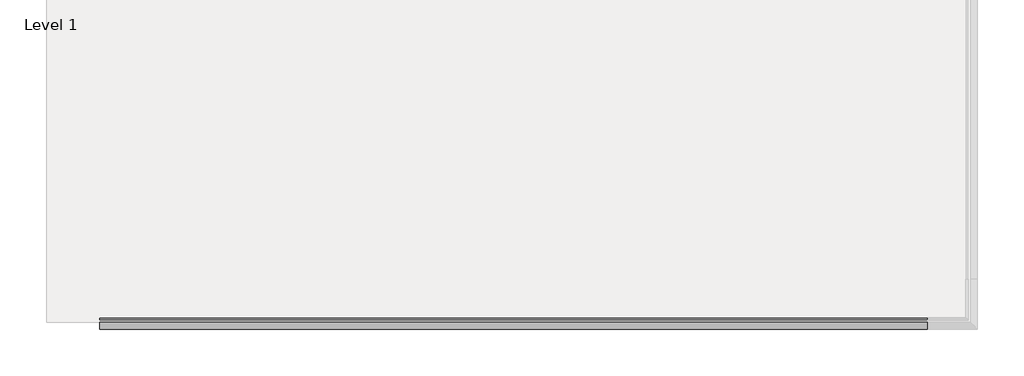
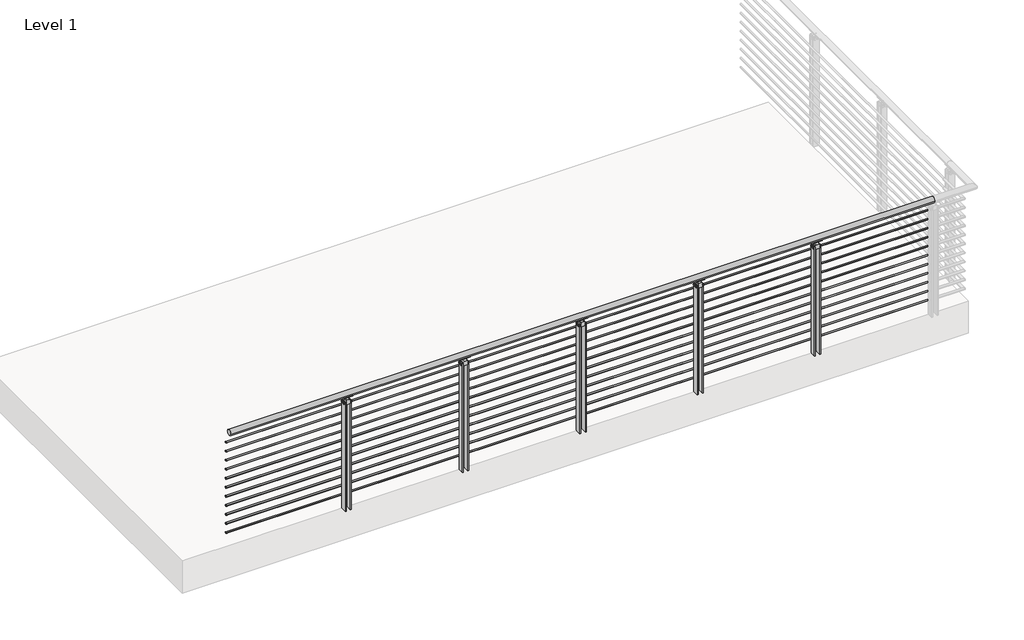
# One storey, part 9 of 36: 1 railing.
"""IFC4 building model written with IfcOpenShell, lengths in millimetres."""

from ifc_helpers import new_model, si_unit, point, frame, frame_2d, origin, origin_with_axes, place, context, project, spatial, polyline, circle_curve, trimmed, segment, composite_curve, outline, extrude, element, save
from ifc_brep_helpers import plane_surface, cylinder_surface, revolved_surface, advanced_brep

model = new_model("IFC4")

# Units and contexts
model_context = context("Model", 3, world=origin())
ifc_project = project(units=[si_unit("LENGTHUNIT", "METRE", prefix="MILLI")], contexts=[model_context])

# Site, building, storey
site = spatial("IfcSite", under=ifc_project)
building = spatial("IfcBuilding", under=site)
storey = spatial("IfcBuildingStorey", under=building, Name="Level 1", Elevation=0.0)

# Railing
placement = place(None, origin())
element("IfcRailing", 1, ObjectType="VIVA-BLADE-Multiline-Weld Mount-Straight", at=placement, inside=storey, context=model_context, shape_type="SolidModel", body=[
    extrude(outline(composite_curve([segment(trimmed(circle_curve(frame_2d((-75040.6334719, 1054.1)), 25.4), [point((-75066.0334719, 1054.1))], [point((-75015.2334719, 1054.1))], False, "CARTESIAN"), True, "CONTINUOUS"), segment(trimmed(circle_curve(frame_2d((-75040.6334719, 1054.1)), 25.4), [point((-75015.2334719, 1054.1))], [point((-75066.0334719, 1054.1))], False, "CARTESIAN"), True, "CONTINUOUS")], self_intersect=False)), frame((38933.2855247, 0.0, 0.0), z_axis=(1.0, 0.0, 0.0), x_axis=(0.0, 1.0, 0.0)), (0.0, 0.0, 1.0), 6096.0),
    extrude(outline(composite_curve([segment(trimmed(circle_curve(frame_2d((-74989.8334719, 933.45)), 6.35), [point((-74983.4834719, 933.45))], [point((-74996.1834719, 933.45))], False, "CARTESIAN"), True, "CONTINUOUS"), segment(trimmed(circle_curve(frame_2d((-74989.8334719, 933.45)), 6.35), [point((-74996.1834719, 933.45))], [point((-74983.4834719, 933.45))], False, "CARTESIAN"), True, "CONTINUOUS")], self_intersect=False)), frame((38933.2855247, 0.0, 0.0), z_axis=(1.0, 0.0, 0.0), x_axis=(0.0, 1.0, 0.0)), (0.0, 0.0, 1.0), 6096.0),
    extrude(outline(composite_curve([segment(trimmed(circle_curve(frame_2d((-74989.8334719, 850.9)), 6.35), [point((-74983.4834719, 850.9))], [point((-74996.1834719, 850.9))], False, "CARTESIAN"), True, "CONTINUOUS"), segment(trimmed(circle_curve(frame_2d((-74989.8334719, 850.9)), 6.35), [point((-74996.1834719, 850.9))], [point((-74983.4834719, 850.9))], False, "CARTESIAN"), True, "CONTINUOUS")], self_intersect=False)), frame((38933.2855247, 0.0, 0.0), z_axis=(1.0, 0.0, 0.0), x_axis=(0.0, 1.0, 0.0)), (0.0, 0.0, 1.0), 6096.0),
    extrude(outline(composite_curve([segment(trimmed(circle_curve(frame_2d((-74989.8334719, 768.35)), 6.35), [point((-74983.4834719, 768.35))], [point((-74996.1834719, 768.35))], False, "CARTESIAN"), True, "CONTINUOUS"), segment(trimmed(circle_curve(frame_2d((-74989.8334719, 768.35)), 6.35), [point((-74996.1834719, 768.35))], [point((-74983.4834719, 768.35))], False, "CARTESIAN"), True, "CONTINUOUS")], self_intersect=False)), frame((38933.2855247, 0.0, 0.0), z_axis=(1.0, 0.0, 0.0), x_axis=(0.0, 1.0, 0.0)), (0.0, 0.0, 1.0), 6096.0),
    extrude(outline(composite_curve([segment(trimmed(circle_curve(frame_2d((-74989.8334719, 685.8)), 6.35), [point((-74983.4834719, 685.8))], [point((-74996.1834719, 685.8))], False, "CARTESIAN"), True, "CONTINUOUS"), segment(trimmed(circle_curve(frame_2d((-74989.8334719, 685.8)), 6.35), [point((-74996.1834719, 685.8))], [point((-74983.4834719, 685.8))], False, "CARTESIAN"), True, "CONTINUOUS")], self_intersect=False)), frame((38933.2855247, 0.0, 0.0), z_axis=(1.0, 0.0, 0.0), x_axis=(0.0, 1.0, 0.0)), (0.0, 0.0, 1.0), 6096.0),
    extrude(outline(composite_curve([segment(trimmed(circle_curve(frame_2d((-74989.8334719, 603.25)), 6.35), [point((-74983.4834719, 603.25))], [point((-74996.1834719, 603.25))], False, "CARTESIAN"), True, "CONTINUOUS"), segment(trimmed(circle_curve(frame_2d((-74989.8334719, 603.25)), 6.35), [point((-74996.1834719, 603.25))], [point((-74983.4834719, 603.25))], False, "CARTESIAN"), True, "CONTINUOUS")], self_intersect=False)), frame((38933.2855247, 0.0, 0.0), z_axis=(1.0, 0.0, 0.0), x_axis=(0.0, 1.0, 0.0)), (0.0, 0.0, 1.0), 6096.0),
    extrude(outline(composite_curve([segment(trimmed(circle_curve(frame_2d((-74989.8334719, 520.7)), 6.35), [point((-74983.4834719, 520.7))], [point((-74996.1834719, 520.7))], False, "CARTESIAN"), True, "CONTINUOUS"), segment(trimmed(circle_curve(frame_2d((-74989.8334719, 520.7)), 6.35), [point((-74996.1834719, 520.7))], [point((-74983.4834719, 520.7))], False, "CARTESIAN"), True, "CONTINUOUS")], self_intersect=False)), frame((38933.2855247, 0.0, 0.0), z_axis=(1.0, 0.0, 0.0), x_axis=(0.0, 1.0, 0.0)), (0.0, 0.0, 1.0), 6096.0),
    extrude(outline(composite_curve([segment(trimmed(circle_curve(frame_2d((-74989.8334719, 438.15)), 6.35), [point((-74983.4834719, 438.15))], [point((-74996.1834719, 438.15))], False, "CARTESIAN"), True, "CONTINUOUS"), segment(trimmed(circle_curve(frame_2d((-74989.8334719, 438.15)), 6.35), [point((-74996.1834719, 438.15))], [point((-74983.4834719, 438.15))], False, "CARTESIAN"), True, "CONTINUOUS")], self_intersect=False)), frame((38933.2855247, 0.0, 0.0), z_axis=(1.0, 0.0, 0.0), x_axis=(0.0, 1.0, 0.0)), (0.0, 0.0, 1.0), 6096.0),
    extrude(outline(composite_curve([segment(trimmed(circle_curve(frame_2d((-74989.8334719, 355.6)), 6.35), [point((-74983.4834719, 355.6))], [point((-74996.1834719, 355.6))], False, "CARTESIAN"), True, "CONTINUOUS"), segment(trimmed(circle_curve(frame_2d((-74989.8334719, 355.6)), 6.35), [point((-74996.1834719, 355.6))], [point((-74983.4834719, 355.6))], False, "CARTESIAN"), True, "CONTINUOUS")], self_intersect=False)), frame((38933.2855247, 0.0, 0.0), z_axis=(1.0, 0.0, 0.0), x_axis=(0.0, 1.0, 0.0)), (0.0, 0.0, 1.0), 6096.0),
    extrude(outline(composite_curve([segment(trimmed(circle_curve(frame_2d((-74989.8334719, 273.05)), 6.35), [point((-74983.4834719, 273.05))], [point((-74996.1834719, 273.05))], False, "CARTESIAN"), True, "CONTINUOUS"), segment(trimmed(circle_curve(frame_2d((-74989.8334719, 273.05)), 6.35), [point((-74996.1834719, 273.05))], [point((-74983.4834719, 273.05))], False, "CARTESIAN"), True, "CONTINUOUS")], self_intersect=False)), frame((38933.2855247, 0.0, 0.0), z_axis=(1.0, 0.0, 0.0), x_axis=(0.0, 1.0, 0.0)), (0.0, 0.0, 1.0), 6096.0),
    extrude(outline(composite_curve([segment(trimmed(circle_curve(frame_2d((-74989.8334719, 190.5)), 6.35), [point((-74983.4834719, 190.5))], [point((-74996.1834719, 190.5))], False, "CARTESIAN"), True, "CONTINUOUS"), segment(trimmed(circle_curve(frame_2d((-74989.8334719, 190.5)), 6.35), [point((-74996.1834719, 190.5))], [point((-74983.4834719, 190.5))], False, "CARTESIAN"), True, "CONTINUOUS")], self_intersect=False)), frame((38933.2855247, 0.0, 0.0), z_axis=(1.0, 0.0, 0.0), x_axis=(0.0, 1.0, 0.0)), (0.0, 0.0, 1.0), 6096.0),
    extrude(outline(composite_curve([segment(trimmed(circle_curve(frame_2d((-74989.8334719, 107.95)), 6.35), [point((-74983.4834719, 107.95))], [point((-74996.1834719, 107.95))], False, "CARTESIAN"), True, "CONTINUOUS"), segment(trimmed(circle_curve(frame_2d((-74989.8334719, 107.95)), 6.35), [point((-74996.1834719, 107.95))], [point((-74983.4834719, 107.95))], False, "CARTESIAN"), True, "CONTINUOUS")], self_intersect=False)), frame((38933.2855247, 0.0, 0.0), z_axis=(1.0, 0.0, 0.0), x_axis=(0.0, 1.0, 0.0)), (0.0, 0.0, 1.0), 6096.0),
    advanced_brep(
    [(44058.5229247, -75027.8733482, 1032.0967655), (44058.5229247, -75052.7454127, 1031.9535285), (44058.5229247, -75055.5543431, 1027.1267745), (44058.5229247, -75024.0374508, 1027.707533), (43968.0481247, -75027.8733482, 1032.0967655), (43968.0481247, -75024.0374508, 1027.707533), (43968.0481247, -75055.6681364, 1027.1893964), (43968.0481247, -75052.8323849, 1032.0018447)],
    [
        (0, 1, circle_curve(frame((44058.5229247, -75040.4371511, 1054.2115898), z_axis=(-1.0, 0.0, 0.0), x_axis=(0.0, 1.0, 0.0)), 25.4345159)),
        (1, 2, circle_curve(frame((44058.5229247, -75054.077038, 1029.4993599), z_axis=(1.0, 0.0, 0.0), x_axis=(0.0, 1.0, 0.0)), 2.7949225)),
        (2, 3, circle_curve(frame((44058.5229247, -75040.303688, 1054.9742164), z_axis=(1.0, 0.0, 0.0), x_axis=(0.0, 1.0, 0.0)), 31.75)),
        (3, 0, circle_curve(frame((44058.5229247, -75026.3257905, 1029.5784521), z_axis=(1.0, 0.0, 0.0), x_axis=(0.0, 1.0, 0.0)), 2.9558141)),
        (4, 5, circle_curve(frame((43968.0481247, -75026.3257905, 1029.5784521), z_axis=(-1.0, 0.0, 0.0), x_axis=(0.0, 1.0, 0.0)), 2.9558141)),
        (5, 6, circle_curve(frame((43968.0481247, -75040.303688, 1054.9742164), z_axis=(-1.0, 0.0, 0.0), x_axis=(0.0, 1.0, 0.0)), 31.75)),
        (6, 7, circle_curve(frame((43968.0481247, -75054.077038, 1029.4993599), z_axis=(-1.0, 0.0, 0.0), x_axis=(0.0, 1.0, 0.0)), 2.7949225)),
        (7, 4, circle_curve(frame((43968.0481247, -75040.4371511, 1054.2115898), z_axis=(1.0, 0.0, 0.0), x_axis=(0.0, 1.0, 0.0)), 25.4345159)),
        (0, 4),
        (7, 1),
        (6, 2),
        (5, 3),
    ],
    [
        plane_surface(frame((44058.5229247, -75015.0026353, 1054.2115898), z_axis=(1.0, 0.0, 0.0), x_axis=(0.0, 0.0, -1.0))),
        plane_surface(frame((43968.0481247, -75015.0026353, 1054.2115898), z_axis=(-1.0, 0.0, 0.0), x_axis=(0.0, 0.0, 1.0))),
        revolved_surface(polyline([(43968.0481247, -75015.00263520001, 1054.2115898), (44058.5229247, -75015.00263520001, 1054.2115898)]), (43968.0481247, -75040.4371511, 1054.2115898), (-1.0, 0.0, 0.0)),
        cylinder_surface(frame((43968.0481247, -75054.077038, 1029.4993599), z_axis=(1.0, 0.0, 0.0), x_axis=(0.0, 1.0, 0.0)), 2.7949225),
        cylinder_surface(frame((43968.0481247, -75040.303688, 1054.9742164), z_axis=(1.0, 0.0, 0.0), x_axis=(0.0, 1.0, 0.0)), 31.75),
        cylinder_surface(frame((43968.0481247, -75026.3257905, 1029.5784521), z_axis=(1.0, 0.0, 0.0), x_axis=(0.0, 1.0, 0.0)), 2.9558141),
    ],
    [
        (0, [[1, 2, 3, 4]]),
        (1, [[5, 6, 7, 8]]),
        (2, [[-1, 9, -8, 10]]),
        (3, [[-2, -10, -7, 11]]),
        (4, [[-3, -11, -6, 12]]),
        (5, [[-4, -12, -5, -9]]),
    ],
),
    advanced_brep(
    [(44025.9855247, -75038.0934719, 1014.4125), (44000.5855247, -75038.0934719, 1014.4125), (43986.2176098, -75038.0934719, 1028.7804149), (44040.3534396, -75038.0934719, 1028.7804149), (44025.9855247, -75043.1734719, 1014.4125), (44040.3534396, -75043.1734719, 1028.7804149), (43986.2176098, -75043.1734719, 1028.7804149), (44000.5855247, -75043.1734719, 1014.4125)],
    [
        (0, 1),
        (1, 2, circle_curve(frame((43986.2176098, -75038.0934719, 1014.4125), z_axis=(0.0, -1.0, 0.0), x_axis=(-1.0, 0.0, 0.0)), 14.3679149)),
        (2, 3),
        (3, 0, circle_curve(frame((44040.3534396, -75038.0934719, 1014.4125), z_axis=(0.0, -1.0, 0.0), x_axis=(-1.0, 0.0, 0.0)), 14.3679149)),
        (4, 5, circle_curve(frame((44040.3534396, -75043.1734719, 1014.4125), z_axis=(0.0, 1.0, 0.0), x_axis=(-1.0, 0.0, 0.0)), 14.3679149)),
        (5, 6),
        (6, 7, circle_curve(frame((43986.2176098, -75043.1734719, 1014.4125), z_axis=(0.0, 1.0, 0.0), x_axis=(-1.0, 0.0, 0.0)), 14.3679149)),
        (7, 4),
        (0, 4),
        (7, 1),
        (6, 2),
        (5, 3),
    ],
    [
        plane_surface(frame((44000.5855247, -75038.0934719, 1014.4125), z_axis=(0.0, 1.0, 0.0), x_axis=(-1.0, 0.0, 0.0))),
        plane_surface(frame((44000.5855247, -75043.1734719, 1014.4125), z_axis=(0.0, -1.0, 0.0), x_axis=(1.0, 0.0, 0.0))),
        plane_surface(frame((44025.9855247, -75038.0934719, 1014.4125), z_axis=(0.0, 0.0, -1.0), x_axis=(0.0, -1.0, 0.0))),
        revolved_surface(polyline([(43971.8496949, -75043.1734719, 1014.4125), (43971.8496949, -75038.0934719, 1014.4125)]), (43986.2176098, -75043.1734719, 1014.4125), (0.0, -1.0, 0.0)),
        plane_surface(frame((43986.2176098, -75038.0934719, 1028.7804149), z_axis=(0.0, 0.0, 1.0), x_axis=(0.0, -1.0, 0.0))),
        revolved_surface(polyline([(44025.9855247, -75043.1734719, 1014.4125), (44025.9855247, -75038.0934719, 1014.4125)]), (44040.3534396, -75043.1734719, 1014.4125), (0.0, -1.0, 0.0)),
    ],
    [
        (0, [[1, 2, 3, 4]]),
        (1, [[5, 6, 7, 8]]),
        (2, [[-1, 9, -8, 10]]),
        (3, [[-2, -10, -7, 11]]),
        (4, [[-3, -11, -6, 12]]),
        (5, [[-4, -12, -5, -9]]),
    ],
),
    extrude(outline(polyline([(43986.210689, -75015.2336752), (43994.2355247, -75015.2336752), (43994.2355247, -75066.0359998), (43986.210689, -75066.0359998), (43986.210689, -75015.2336752)])), origin_with_axes(), (0.0, 0.0, 1.0), 996.95),
    extrude(outline(composite_curve([segment(trimmed(circle_curve(frame_2d((-75053.3359488, 986.0416929)), 8.89), [point((-75062.2259488, 986.0416929))], [point((-75044.4459488, 986.0416929))], False, "CARTESIAN"), True, "CONTINUOUS"), segment(trimmed(circle_curve(frame_2d((-75053.3359488, 986.0416929)), 8.89), [point((-75044.4459488, 986.0416929))], [point((-75062.2259488, 986.0416929))], False, "CARTESIAN"), True, "CONTINUOUS")], self_intersect=False)), frame((43981.5355247, 0.0, 0.0), z_axis=(1.0, 0.0, 0.0), x_axis=(0.0, 1.0, 0.0)), (0.0, 0.0, 1.0), 63.4880631),
    extrude(outline(composite_curve([segment(trimmed(circle_curve(frame_2d((-75027.9360508, 986.0416929)), 8.89), [point((-75036.8260508, 986.0416929))], [point((-75019.0460508, 986.0416929))], False, "CARTESIAN"), True, "CONTINUOUS"), segment(trimmed(circle_curve(frame_2d((-75027.9360508, 986.0416929)), 8.89), [point((-75019.0460508, 986.0416929))], [point((-75036.8260508, 986.0416929))], False, "CARTESIAN"), True, "CONTINUOUS")], self_intersect=False)), frame((43981.5355247, 0.0, 0.0), z_axis=(1.0, 0.0, 0.0), x_axis=(0.0, 1.0, 0.0)), (0.0, 0.0, 1.0), 63.4880631),
    extrude(outline(polyline([(974.7123, 43994.2355247), (974.7123, 44032.3355247), (1008.0625, 44032.3355247), (1014.4125, 44025.9855247), (1014.4125, 44000.5855247), (1008.0625, 43994.2355247), (974.7123, 43994.2355247)])), frame((0.0, -75066.0359998, 0.0), z_axis=(0.0, 1.0, 0.0), x_axis=(0.0, 0.0, 1.0)), (0.0, 0.0, 1.0), 50.8025279),
    extrude(outline(polyline([(44032.3354867, -75015.2336752), (44040.3364867, -75015.2336752), (44040.3364867, -75066.0359998), (44032.3354867, -75066.0359998), (44032.3354867, -75015.2336752)])), origin_with_axes(), (0.0, 0.0, 1.0), 996.95),
    advanced_brep(
    [(43042.5229247, -75027.8733482, 1032.0967655), (43042.5229247, -75052.7454127, 1031.9535285), (43042.5229247, -75055.5543431, 1027.1267745), (43042.5229247, -75024.0374508, 1027.707533), (42952.0481247, -75027.8733482, 1032.0967655), (42952.0481247, -75024.0374508, 1027.707533), (42952.0481247, -75055.6681364, 1027.1893964), (42952.0481247, -75052.8323849, 1032.0018447)],
    [
        (0, 1, circle_curve(frame((43042.5229247, -75040.4371511, 1054.2115898), z_axis=(-1.0, 0.0, 0.0), x_axis=(0.0, 1.0, 0.0)), 25.4345159)),
        (1, 2, circle_curve(frame((43042.5229247, -75054.077038, 1029.4993599), z_axis=(1.0, 0.0, 0.0), x_axis=(0.0, 1.0, 0.0)), 2.7949225)),
        (2, 3, circle_curve(frame((43042.5229247, -75040.303688, 1054.9742164), z_axis=(1.0, 0.0, 0.0), x_axis=(0.0, 1.0, 0.0)), 31.75)),
        (3, 0, circle_curve(frame((43042.5229247, -75026.3257905, 1029.5784521), z_axis=(1.0, 0.0, 0.0), x_axis=(0.0, 1.0, 0.0)), 2.9558141)),
        (4, 5, circle_curve(frame((42952.0481247, -75026.3257905, 1029.5784521), z_axis=(-1.0, 0.0, 0.0), x_axis=(0.0, 1.0, 0.0)), 2.9558141)),
        (5, 6, circle_curve(frame((42952.0481247, -75040.303688, 1054.9742164), z_axis=(-1.0, 0.0, 0.0), x_axis=(0.0, 1.0, 0.0)), 31.75)),
        (6, 7, circle_curve(frame((42952.0481247, -75054.077038, 1029.4993599), z_axis=(-1.0, 0.0, 0.0), x_axis=(0.0, 1.0, 0.0)), 2.7949225)),
        (7, 4, circle_curve(frame((42952.0481247, -75040.4371511, 1054.2115898), z_axis=(1.0, 0.0, 0.0), x_axis=(0.0, 1.0, 0.0)), 25.4345159)),
        (0, 4),
        (7, 1),
        (6, 2),
        (5, 3),
    ],
    [
        plane_surface(frame((43042.5229247, -75015.0026353, 1054.2115898), z_axis=(1.0, 0.0, 0.0), x_axis=(0.0, 0.0, -1.0))),
        plane_surface(frame((42952.0481247, -75015.0026353, 1054.2115898), z_axis=(-1.0, 0.0, 0.0), x_axis=(0.0, 0.0, 1.0))),
        revolved_surface(polyline([(42952.0481247, -75015.00263520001, 1054.2115898), (43042.5229247, -75015.00263520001, 1054.2115898)]), (42952.0481247, -75040.4371511, 1054.2115898), (-1.0, 0.0, 0.0)),
        cylinder_surface(frame((42952.0481247, -75054.077038, 1029.4993599), z_axis=(1.0, 0.0, 0.0), x_axis=(0.0, 1.0, 0.0)), 2.7949225),
        cylinder_surface(frame((42952.0481247, -75040.303688, 1054.9742164), z_axis=(1.0, 0.0, 0.0), x_axis=(0.0, 1.0, 0.0)), 31.75),
        cylinder_surface(frame((42952.0481247, -75026.3257905, 1029.5784521), z_axis=(1.0, 0.0, 0.0), x_axis=(0.0, 1.0, 0.0)), 2.9558141),
    ],
    [
        (0, [[1, 2, 3, 4]]),
        (1, [[5, 6, 7, 8]]),
        (2, [[-1, 9, -8, 10]]),
        (3, [[-2, -10, -7, 11]]),
        (4, [[-3, -11, -6, 12]]),
        (5, [[-4, -12, -5, -9]]),
    ],
),
    advanced_brep(
    [(43009.9855247, -75038.0934719, 1014.4125), (42984.5855247, -75038.0934719, 1014.4125), (42970.2176098, -75038.0934719, 1028.7804149), (43024.3534396, -75038.0934719, 1028.7804149), (43009.9855247, -75043.1734719, 1014.4125), (43024.3534396, -75043.1734719, 1028.7804149), (42970.2176098, -75043.1734719, 1028.7804149), (42984.5855247, -75043.1734719, 1014.4125)],
    [
        (0, 1),
        (1, 2, circle_curve(frame((42970.2176098, -75038.0934719, 1014.4125), z_axis=(0.0, -1.0, 0.0), x_axis=(-1.0, 0.0, 0.0)), 14.3679149)),
        (2, 3),
        (3, 0, circle_curve(frame((43024.3534396, -75038.0934719, 1014.4125), z_axis=(0.0, -1.0, 0.0), x_axis=(-1.0, 0.0, 0.0)), 14.3679149)),
        (4, 5, circle_curve(frame((43024.3534396, -75043.1734719, 1014.4125), z_axis=(0.0, 1.0, 0.0), x_axis=(-1.0, 0.0, 0.0)), 14.3679149)),
        (5, 6),
        (6, 7, circle_curve(frame((42970.2176098, -75043.1734719, 1014.4125), z_axis=(0.0, 1.0, 0.0), x_axis=(-1.0, 0.0, 0.0)), 14.3679149)),
        (7, 4),
        (0, 4),
        (7, 1),
        (6, 2),
        (5, 3),
    ],
    [
        plane_surface(frame((42984.5855247, -75038.0934719, 1014.4125), z_axis=(0.0, 1.0, 0.0), x_axis=(-1.0, 0.0, 0.0))),
        plane_surface(frame((42984.5855247, -75043.1734719, 1014.4125), z_axis=(0.0, -1.0, 0.0), x_axis=(1.0, 0.0, 0.0))),
        plane_surface(frame((43009.9855247, -75038.0934719, 1014.4125), z_axis=(0.0, 0.0, -1.0), x_axis=(0.0, -1.0, 0.0))),
        revolved_surface(polyline([(42955.8496949, -75043.1734719, 1014.4125), (42955.8496949, -75038.0934719, 1014.4125)]), (42970.2176098, -75043.1734719, 1014.4125), (0.0, -1.0, 0.0)),
        plane_surface(frame((42970.2176098, -75038.0934719, 1028.7804149), z_axis=(0.0, 0.0, 1.0), x_axis=(0.0, -1.0, 0.0))),
        revolved_surface(polyline([(43009.9855247, -75043.1734719, 1014.4125), (43009.9855247, -75038.0934719, 1014.4125)]), (43024.3534396, -75043.1734719, 1014.4125), (0.0, -1.0, 0.0)),
    ],
    [
        (0, [[1, 2, 3, 4]]),
        (1, [[5, 6, 7, 8]]),
        (2, [[-1, 9, -8, 10]]),
        (3, [[-2, -10, -7, 11]]),
        (4, [[-3, -11, -6, 12]]),
        (5, [[-4, -12, -5, -9]]),
    ],
),
    extrude(outline(polyline([(42970.210689, -75015.2336752), (42978.2355247, -75015.2336752), (42978.2355247, -75066.0359998), (42970.210689, -75066.0359998), (42970.210689, -75015.2336752)])), origin_with_axes(), (0.0, 0.0, 1.0), 996.95),
    extrude(outline(composite_curve([segment(trimmed(circle_curve(frame_2d((-75053.3359488, 986.0416929)), 8.89), [point((-75062.2259488, 986.0416929))], [point((-75044.4459488, 986.0416929))], False, "CARTESIAN"), True, "CONTINUOUS"), segment(trimmed(circle_curve(frame_2d((-75053.3359488, 986.0416929)), 8.89), [point((-75044.4459488, 986.0416929))], [point((-75062.2259488, 986.0416929))], False, "CARTESIAN"), True, "CONTINUOUS")], self_intersect=False)), frame((42965.5355247, 0.0, 0.0), z_axis=(1.0, 0.0, 0.0), x_axis=(0.0, 1.0, 0.0)), (0.0, 0.0, 1.0), 63.4880631),
    extrude(outline(composite_curve([segment(trimmed(circle_curve(frame_2d((-75027.9360508, 986.0416929)), 8.89), [point((-75036.8260508, 986.0416929))], [point((-75019.0460508, 986.0416929))], False, "CARTESIAN"), True, "CONTINUOUS"), segment(trimmed(circle_curve(frame_2d((-75027.9360508, 986.0416929)), 8.89), [point((-75019.0460508, 986.0416929))], [point((-75036.8260508, 986.0416929))], False, "CARTESIAN"), True, "CONTINUOUS")], self_intersect=False)), frame((42965.5355247, 0.0, 0.0), z_axis=(1.0, 0.0, 0.0), x_axis=(0.0, 1.0, 0.0)), (0.0, 0.0, 1.0), 63.4880631),
    extrude(outline(polyline([(974.7123, 42978.2355247), (974.7123, 43016.3355247), (1008.0625, 43016.3355247), (1014.4125, 43009.9855247), (1014.4125, 42984.5855247), (1008.0625, 42978.2355247), (974.7123, 42978.2355247)])), frame((0.0, -75066.0359998, 0.0), z_axis=(0.0, 1.0, 0.0), x_axis=(0.0, 0.0, 1.0)), (0.0, 0.0, 1.0), 50.8025279),
    extrude(outline(polyline([(43016.3354867, -75015.2336752), (43024.3364867, -75015.2336752), (43024.3364867, -75066.0359998), (43016.3354867, -75066.0359998), (43016.3354867, -75015.2336752)])), origin_with_axes(), (0.0, 0.0, 1.0), 996.95),
    advanced_brep(
    [(42026.5229247, -75027.8733482, 1032.0967655), (42026.5229247, -75052.7454127, 1031.9535285), (42026.5229247, -75055.5543431, 1027.1267745), (42026.5229247, -75024.0374508, 1027.707533), (41936.0481247, -75027.8733482, 1032.0967655), (41936.0481247, -75024.0374508, 1027.707533), (41936.0481247, -75055.6681364, 1027.1893964), (41936.0481247, -75052.8323849, 1032.0018447)],
    [
        (0, 1, circle_curve(frame((42026.5229247, -75040.4371511, 1054.2115898), z_axis=(-1.0, 0.0, 0.0), x_axis=(0.0, 1.0, 0.0)), 25.4345159)),
        (1, 2, circle_curve(frame((42026.5229247, -75054.077038, 1029.4993599), z_axis=(1.0, 0.0, 0.0), x_axis=(0.0, 1.0, 0.0)), 2.7949225)),
        (2, 3, circle_curve(frame((42026.5229247, -75040.303688, 1054.9742164), z_axis=(1.0, 0.0, 0.0), x_axis=(0.0, 1.0, 0.0)), 31.75)),
        (3, 0, circle_curve(frame((42026.5229247, -75026.3257905, 1029.5784521), z_axis=(1.0, 0.0, 0.0), x_axis=(0.0, 1.0, 0.0)), 2.9558141)),
        (4, 5, circle_curve(frame((41936.0481247, -75026.3257905, 1029.5784521), z_axis=(-1.0, 0.0, 0.0), x_axis=(0.0, 1.0, 0.0)), 2.9558141)),
        (5, 6, circle_curve(frame((41936.0481247, -75040.303688, 1054.9742164), z_axis=(-1.0, 0.0, 0.0), x_axis=(0.0, 1.0, 0.0)), 31.75)),
        (6, 7, circle_curve(frame((41936.0481247, -75054.077038, 1029.4993599), z_axis=(-1.0, 0.0, 0.0), x_axis=(0.0, 1.0, 0.0)), 2.7949225)),
        (7, 4, circle_curve(frame((41936.0481247, -75040.4371511, 1054.2115898), z_axis=(1.0, 0.0, 0.0), x_axis=(0.0, 1.0, 0.0)), 25.4345159)),
        (0, 4),
        (7, 1),
        (6, 2),
        (5, 3),
    ],
    [
        plane_surface(frame((42026.5229247, -75015.0026353, 1054.2115898), z_axis=(1.0, 0.0, 0.0), x_axis=(0.0, 0.0, -1.0))),
        plane_surface(frame((41936.0481247, -75015.0026353, 1054.2115898), z_axis=(-1.0, 0.0, 0.0), x_axis=(0.0, 0.0, 1.0))),
        revolved_surface(polyline([(41936.0481247, -75015.00263520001, 1054.2115898), (42026.5229247, -75015.00263520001, 1054.2115898)]), (41936.0481247, -75040.4371511, 1054.2115898), (-1.0, 0.0, 0.0)),
        cylinder_surface(frame((41936.0481247, -75054.077038, 1029.4993599), z_axis=(1.0, 0.0, 0.0), x_axis=(0.0, 1.0, 0.0)), 2.7949225),
        cylinder_surface(frame((41936.0481247, -75040.303688, 1054.9742164), z_axis=(1.0, 0.0, 0.0), x_axis=(0.0, 1.0, 0.0)), 31.75),
        cylinder_surface(frame((41936.0481247, -75026.3257905, 1029.5784521), z_axis=(1.0, 0.0, 0.0), x_axis=(0.0, 1.0, 0.0)), 2.9558141),
    ],
    [
        (0, [[1, 2, 3, 4]]),
        (1, [[5, 6, 7, 8]]),
        (2, [[-1, 9, -8, 10]]),
        (3, [[-2, -10, -7, 11]]),
        (4, [[-3, -11, -6, 12]]),
        (5, [[-4, -12, -5, -9]]),
    ],
),
    advanced_brep(
    [(41993.9855247, -75038.0934719, 1014.4125), (41968.5855247, -75038.0934719, 1014.4125), (41954.2176098, -75038.0934719, 1028.7804149), (42008.3534396, -75038.0934719, 1028.7804149), (41993.9855247, -75043.1734719, 1014.4125), (42008.3534396, -75043.1734719, 1028.7804149), (41954.2176098, -75043.1734719, 1028.7804149), (41968.5855247, -75043.1734719, 1014.4125)],
    [
        (0, 1),
        (1, 2, circle_curve(frame((41954.2176098, -75038.0934719, 1014.4125), z_axis=(0.0, -1.0, 0.0), x_axis=(-1.0, 0.0, 0.0)), 14.3679149)),
        (2, 3),
        (3, 0, circle_curve(frame((42008.3534396, -75038.0934719, 1014.4125), z_axis=(0.0, -1.0, 0.0), x_axis=(-1.0, 0.0, 0.0)), 14.3679149)),
        (4, 5, circle_curve(frame((42008.3534396, -75043.1734719, 1014.4125), z_axis=(0.0, 1.0, 0.0), x_axis=(-1.0, 0.0, 0.0)), 14.3679149)),
        (5, 6),
        (6, 7, circle_curve(frame((41954.2176098, -75043.1734719, 1014.4125), z_axis=(0.0, 1.0, 0.0), x_axis=(-1.0, 0.0, 0.0)), 14.3679149)),
        (7, 4),
        (0, 4),
        (7, 1),
        (6, 2),
        (5, 3),
    ],
    [
        plane_surface(frame((41968.5855247, -75038.0934719, 1014.4125), z_axis=(0.0, 1.0, 0.0), x_axis=(-1.0, 0.0, 0.0))),
        plane_surface(frame((41968.5855247, -75043.1734719, 1014.4125), z_axis=(0.0, -1.0, 0.0), x_axis=(1.0, 0.0, 0.0))),
        plane_surface(frame((41993.9855247, -75038.0934719, 1014.4125), z_axis=(0.0, 0.0, -1.0), x_axis=(0.0, -1.0, 0.0))),
        revolved_surface(polyline([(41939.8496949, -75043.1734719, 1014.4125), (41939.8496949, -75038.0934719, 1014.4125)]), (41954.2176098, -75043.1734719, 1014.4125), (0.0, -1.0, 0.0)),
        plane_surface(frame((41954.2176098, -75038.0934719, 1028.7804149), z_axis=(0.0, 0.0, 1.0), x_axis=(0.0, -1.0, 0.0))),
        revolved_surface(polyline([(41993.9855247, -75043.1734719, 1014.4125), (41993.9855247, -75038.0934719, 1014.4125)]), (42008.3534396, -75043.1734719, 1014.4125), (0.0, -1.0, 0.0)),
    ],
    [
        (0, [[1, 2, 3, 4]]),
        (1, [[5, 6, 7, 8]]),
        (2, [[-1, 9, -8, 10]]),
        (3, [[-2, -10, -7, 11]]),
        (4, [[-3, -11, -6, 12]]),
        (5, [[-4, -12, -5, -9]]),
    ],
),
    extrude(outline(polyline([(41954.210689, -75015.2336752), (41962.2355247, -75015.2336752), (41962.2355247, -75066.0359998), (41954.210689, -75066.0359998), (41954.210689, -75015.2336752)])), origin_with_axes(), (0.0, 0.0, 1.0), 996.95),
    extrude(outline(composite_curve([segment(trimmed(circle_curve(frame_2d((-75053.3359488, 986.0416929)), 8.89), [point((-75062.2259488, 986.0416929))], [point((-75044.4459488, 986.0416929))], False, "CARTESIAN"), True, "CONTINUOUS"), segment(trimmed(circle_curve(frame_2d((-75053.3359488, 986.0416929)), 8.89), [point((-75044.4459488, 986.0416929))], [point((-75062.2259488, 986.0416929))], False, "CARTESIAN"), True, "CONTINUOUS")], self_intersect=False)), frame((41949.5355247, 0.0, 0.0), z_axis=(1.0, 0.0, 0.0), x_axis=(0.0, 1.0, 0.0)), (0.0, 0.0, 1.0), 63.4880631),
    extrude(outline(composite_curve([segment(trimmed(circle_curve(frame_2d((-75027.9360508, 986.0416929)), 8.89), [point((-75036.8260508, 986.0416929))], [point((-75019.0460508, 986.0416929))], False, "CARTESIAN"), True, "CONTINUOUS"), segment(trimmed(circle_curve(frame_2d((-75027.9360508, 986.0416929)), 8.89), [point((-75019.0460508, 986.0416929))], [point((-75036.8260508, 986.0416929))], False, "CARTESIAN"), True, "CONTINUOUS")], self_intersect=False)), frame((41949.5355247, 0.0, 0.0), z_axis=(1.0, 0.0, 0.0), x_axis=(0.0, 1.0, 0.0)), (0.0, 0.0, 1.0), 63.4880631),
    extrude(outline(polyline([(974.7123, 41962.2355247), (974.7123, 42000.3355247), (1008.0625, 42000.3355247), (1014.4125, 41993.9855247), (1014.4125, 41968.5855247), (1008.0625, 41962.2355247), (974.7123, 41962.2355247)])), frame((0.0, -75066.0359998, 0.0), z_axis=(0.0, 1.0, 0.0), x_axis=(0.0, 0.0, 1.0)), (0.0, 0.0, 1.0), 50.8025279),
    extrude(outline(polyline([(42000.3354867, -75015.2336752), (42008.3364867, -75015.2336752), (42008.3364867, -75066.0359998), (42000.3354867, -75066.0359998), (42000.3354867, -75015.2336752)])), origin_with_axes(), (0.0, 0.0, 1.0), 996.95),
    advanced_brep(
    [(41010.5229247, -75027.8733482, 1032.0967655), (41010.5229247, -75052.7454127, 1031.9535285), (41010.5229247, -75055.5543431, 1027.1267745), (41010.5229247, -75024.0374508, 1027.707533), (40920.0481247, -75027.8733482, 1032.0967655), (40920.0481247, -75024.0374508, 1027.707533), (40920.0481247, -75055.6681364, 1027.1893964), (40920.0481247, -75052.8323849, 1032.0018447)],
    [
        (0, 1, circle_curve(frame((41010.5229247, -75040.4371511, 1054.2115898), z_axis=(-1.0, 0.0, 0.0), x_axis=(0.0, 1.0, 0.0)), 25.4345159)),
        (1, 2, circle_curve(frame((41010.5229247, -75054.077038, 1029.4993599), z_axis=(1.0, 0.0, 0.0), x_axis=(0.0, 1.0, 0.0)), 2.7949225)),
        (2, 3, circle_curve(frame((41010.5229247, -75040.303688, 1054.9742164), z_axis=(1.0, 0.0, 0.0), x_axis=(0.0, 1.0, 0.0)), 31.75)),
        (3, 0, circle_curve(frame((41010.5229247, -75026.3257905, 1029.5784521), z_axis=(1.0, 0.0, 0.0), x_axis=(0.0, 1.0, 0.0)), 2.9558141)),
        (4, 5, circle_curve(frame((40920.0481247, -75026.3257905, 1029.5784521), z_axis=(-1.0, 0.0, 0.0), x_axis=(0.0, 1.0, 0.0)), 2.9558141)),
        (5, 6, circle_curve(frame((40920.0481247, -75040.303688, 1054.9742164), z_axis=(-1.0, 0.0, 0.0), x_axis=(0.0, 1.0, 0.0)), 31.75)),
        (6, 7, circle_curve(frame((40920.0481247, -75054.077038, 1029.4993599), z_axis=(-1.0, 0.0, 0.0), x_axis=(0.0, 1.0, 0.0)), 2.7949225)),
        (7, 4, circle_curve(frame((40920.0481247, -75040.4371511, 1054.2115898), z_axis=(1.0, 0.0, 0.0), x_axis=(0.0, 1.0, 0.0)), 25.4345159)),
        (0, 4),
        (7, 1),
        (6, 2),
        (5, 3),
    ],
    [
        plane_surface(frame((41010.5229247, -75015.0026353, 1054.2115898), z_axis=(1.0, 0.0, 0.0), x_axis=(0.0, 0.0, -1.0))),
        plane_surface(frame((40920.0481247, -75015.0026353, 1054.2115898), z_axis=(-1.0, 0.0, 0.0), x_axis=(0.0, 0.0, 1.0))),
        revolved_surface(polyline([(40920.0481247, -75015.00263520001, 1054.2115898), (41010.5229247, -75015.00263520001, 1054.2115898)]), (40920.0481247, -75040.4371511, 1054.2115898), (-1.0, 0.0, 0.0)),
        cylinder_surface(frame((40920.0481247, -75054.077038, 1029.4993599), z_axis=(1.0, 0.0, 0.0), x_axis=(0.0, 1.0, 0.0)), 2.7949225),
        cylinder_surface(frame((40920.0481247, -75040.303688, 1054.9742164), z_axis=(1.0, 0.0, 0.0), x_axis=(0.0, 1.0, 0.0)), 31.75),
        cylinder_surface(frame((40920.0481247, -75026.3257905, 1029.5784521), z_axis=(1.0, 0.0, 0.0), x_axis=(0.0, 1.0, 0.0)), 2.9558141),
    ],
    [
        (0, [[1, 2, 3, 4]]),
        (1, [[5, 6, 7, 8]]),
        (2, [[-1, 9, -8, 10]]),
        (3, [[-2, -10, -7, 11]]),
        (4, [[-3, -11, -6, 12]]),
        (5, [[-4, -12, -5, -9]]),
    ],
),
    advanced_brep(
    [(40977.9855247, -75038.0934719, 1014.4125), (40952.5855247, -75038.0934719, 1014.4125), (40938.2176098, -75038.0934719, 1028.7804149), (40992.3534396, -75038.0934719, 1028.7804149), (40977.9855247, -75043.1734719, 1014.4125), (40992.3534396, -75043.1734719, 1028.7804149), (40938.2176098, -75043.1734719, 1028.7804149), (40952.5855247, -75043.1734719, 1014.4125)],
    [
        (0, 1),
        (1, 2, circle_curve(frame((40938.2176098, -75038.0934719, 1014.4125), z_axis=(0.0, -1.0, 0.0), x_axis=(-1.0, 0.0, 0.0)), 14.3679149)),
        (2, 3),
        (3, 0, circle_curve(frame((40992.3534396, -75038.0934719, 1014.4125), z_axis=(0.0, -1.0, 0.0), x_axis=(-1.0, 0.0, 0.0)), 14.3679149)),
        (4, 5, circle_curve(frame((40992.3534396, -75043.1734719, 1014.4125), z_axis=(0.0, 1.0, 0.0), x_axis=(-1.0, 0.0, 0.0)), 14.3679149)),
        (5, 6),
        (6, 7, circle_curve(frame((40938.2176098, -75043.1734719, 1014.4125), z_axis=(0.0, 1.0, 0.0), x_axis=(-1.0, 0.0, 0.0)), 14.3679149)),
        (7, 4),
        (0, 4),
        (7, 1),
        (6, 2),
        (5, 3),
    ],
    [
        plane_surface(frame((40952.5855247, -75038.0934719, 1014.4125), z_axis=(0.0, 1.0, 0.0), x_axis=(-1.0, 0.0, 0.0))),
        plane_surface(frame((40952.5855247, -75043.1734719, 1014.4125), z_axis=(0.0, -1.0, 0.0), x_axis=(1.0, 0.0, 0.0))),
        plane_surface(frame((40977.9855247, -75038.0934719, 1014.4125), z_axis=(0.0, 0.0, -1.0), x_axis=(0.0, -1.0, 0.0))),
        revolved_surface(polyline([(40923.8496949, -75043.1734719, 1014.4125), (40923.8496949, -75038.0934719, 1014.4125)]), (40938.2176098, -75043.1734719, 1014.4125), (0.0, -1.0, 0.0)),
        plane_surface(frame((40938.2176098, -75038.0934719, 1028.7804149), z_axis=(0.0, 0.0, 1.0), x_axis=(0.0, -1.0, 0.0))),
        revolved_surface(polyline([(40977.9855247, -75043.1734719, 1014.4125), (40977.9855247, -75038.0934719, 1014.4125)]), (40992.3534396, -75043.1734719, 1014.4125), (0.0, -1.0, 0.0)),
    ],
    [
        (0, [[1, 2, 3, 4]]),
        (1, [[5, 6, 7, 8]]),
        (2, [[-1, 9, -8, 10]]),
        (3, [[-2, -10, -7, 11]]),
        (4, [[-3, -11, -6, 12]]),
        (5, [[-4, -12, -5, -9]]),
    ],
),
    extrude(outline(polyline([(40938.210689, -75015.2336752), (40946.2355247, -75015.2336752), (40946.2355247, -75066.0359998), (40938.210689, -75066.0359998), (40938.210689, -75015.2336752)])), origin_with_axes(), (0.0, 0.0, 1.0), 996.95),
    extrude(outline(composite_curve([segment(trimmed(circle_curve(frame_2d((-75053.3359488, 986.0416929)), 8.89), [point((-75062.2259488, 986.0416929))], [point((-75044.4459488, 986.0416929))], False, "CARTESIAN"), True, "CONTINUOUS"), segment(trimmed(circle_curve(frame_2d((-75053.3359488, 986.0416929)), 8.89), [point((-75044.4459488, 986.0416929))], [point((-75062.2259488, 986.0416929))], False, "CARTESIAN"), True, "CONTINUOUS")], self_intersect=False)), frame((40933.5355247, 0.0, 0.0), z_axis=(1.0, 0.0, 0.0), x_axis=(0.0, 1.0, 0.0)), (0.0, 0.0, 1.0), 63.4880631),
    extrude(outline(composite_curve([segment(trimmed(circle_curve(frame_2d((-75027.9360508, 986.0416929)), 8.89), [point((-75036.8260508, 986.0416929))], [point((-75019.0460508, 986.0416929))], False, "CARTESIAN"), True, "CONTINUOUS"), segment(trimmed(circle_curve(frame_2d((-75027.9360508, 986.0416929)), 8.89), [point((-75019.0460508, 986.0416929))], [point((-75036.8260508, 986.0416929))], False, "CARTESIAN"), True, "CONTINUOUS")], self_intersect=False)), frame((40933.5355247, 0.0, 0.0), z_axis=(1.0, 0.0, 0.0), x_axis=(0.0, 1.0, 0.0)), (0.0, 0.0, 1.0), 63.4880631),
    extrude(outline(polyline([(974.7123, 40946.2355247), (974.7123, 40984.3355247), (1008.0625, 40984.3355247), (1014.4125, 40977.9855247), (1014.4125, 40952.5855247), (1008.0625, 40946.2355247), (974.7123, 40946.2355247)])), frame((0.0, -75066.0359998, 0.0), z_axis=(0.0, 1.0, 0.0), x_axis=(0.0, 0.0, 1.0)), (0.0, 0.0, 1.0), 50.8025279),
    extrude(outline(polyline([(40984.3354867, -75015.2336752), (40992.3364867, -75015.2336752), (40992.3364867, -75066.0359998), (40984.3354867, -75066.0359998), (40984.3354867, -75015.2336752)])), origin_with_axes(), (0.0, 0.0, 1.0), 996.95),
    advanced_brep(
    [(39994.5229247, -75027.8733482, 1032.0967655), (39994.5229247, -75052.7454127, 1031.9535285), (39994.5229247, -75055.5543431, 1027.1267745), (39994.5229247, -75024.0374508, 1027.707533), (39904.0481247, -75027.8733482, 1032.0967655), (39904.0481247, -75024.0374508, 1027.707533), (39904.0481247, -75055.6681364, 1027.1893964), (39904.0481247, -75052.8323849, 1032.0018447)],
    [
        (0, 1, circle_curve(frame((39994.5229247, -75040.4371511, 1054.2115898), z_axis=(-1.0, 0.0, 0.0), x_axis=(0.0, 1.0, 0.0)), 25.4345159)),
        (1, 2, circle_curve(frame((39994.5229247, -75054.077038, 1029.4993599), z_axis=(1.0, 0.0, 0.0), x_axis=(0.0, 1.0, 0.0)), 2.7949225)),
        (2, 3, circle_curve(frame((39994.5229247, -75040.303688, 1054.9742164), z_axis=(1.0, 0.0, 0.0), x_axis=(0.0, 1.0, 0.0)), 31.75)),
        (3, 0, circle_curve(frame((39994.5229247, -75026.3257905, 1029.5784521), z_axis=(1.0, 0.0, 0.0), x_axis=(0.0, 1.0, 0.0)), 2.9558141)),
        (4, 5, circle_curve(frame((39904.0481247, -75026.3257905, 1029.5784521), z_axis=(-1.0, 0.0, 0.0), x_axis=(0.0, 1.0, 0.0)), 2.9558141)),
        (5, 6, circle_curve(frame((39904.0481247, -75040.303688, 1054.9742164), z_axis=(-1.0, 0.0, 0.0), x_axis=(0.0, 1.0, 0.0)), 31.75)),
        (6, 7, circle_curve(frame((39904.0481247, -75054.077038, 1029.4993599), z_axis=(-1.0, 0.0, 0.0), x_axis=(0.0, 1.0, 0.0)), 2.7949225)),
        (7, 4, circle_curve(frame((39904.0481247, -75040.4371511, 1054.2115898), z_axis=(1.0, 0.0, 0.0), x_axis=(0.0, 1.0, 0.0)), 25.4345159)),
        (0, 4),
        (7, 1),
        (6, 2),
        (5, 3),
    ],
    [
        plane_surface(frame((39994.5229247, -75015.0026353, 1054.2115898), z_axis=(1.0, 0.0, 0.0), x_axis=(0.0, 0.0, -1.0))),
        plane_surface(frame((39904.0481247, -75015.0026353, 1054.2115898), z_axis=(-1.0, 0.0, 0.0), x_axis=(0.0, 0.0, 1.0))),
        revolved_surface(polyline([(39904.0481247, -75015.00263520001, 1054.2115898), (39994.5229247, -75015.00263520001, 1054.2115898)]), (39904.0481247, -75040.4371511, 1054.2115898), (-1.0, 0.0, 0.0)),
        cylinder_surface(frame((39904.0481247, -75054.077038, 1029.4993599), z_axis=(1.0, 0.0, 0.0), x_axis=(0.0, 1.0, 0.0)), 2.7949225),
        cylinder_surface(frame((39904.0481247, -75040.303688, 1054.9742164), z_axis=(1.0, 0.0, 0.0), x_axis=(0.0, 1.0, 0.0)), 31.75),
        cylinder_surface(frame((39904.0481247, -75026.3257905, 1029.5784521), z_axis=(1.0, 0.0, 0.0), x_axis=(0.0, 1.0, 0.0)), 2.9558141),
    ],
    [
        (0, [[1, 2, 3, 4]]),
        (1, [[5, 6, 7, 8]]),
        (2, [[-1, 9, -8, 10]]),
        (3, [[-2, -10, -7, 11]]),
        (4, [[-3, -11, -6, 12]]),
        (5, [[-4, -12, -5, -9]]),
    ],
),
    advanced_brep(
    [(39961.9855247, -75038.0934719, 1014.4125), (39936.5855247, -75038.0934719, 1014.4125), (39922.2176098, -75038.0934719, 1028.7804149), (39976.3534396, -75038.0934719, 1028.7804149), (39961.9855247, -75043.1734719, 1014.4125), (39976.3534396, -75043.1734719, 1028.7804149), (39922.2176098, -75043.1734719, 1028.7804149), (39936.5855247, -75043.1734719, 1014.4125)],
    [
        (0, 1),
        (1, 2, circle_curve(frame((39922.2176098, -75038.0934719, 1014.4125), z_axis=(0.0, -1.0, 0.0), x_axis=(-1.0, 0.0, 0.0)), 14.3679149)),
        (2, 3),
        (3, 0, circle_curve(frame((39976.3534396, -75038.0934719, 1014.4125), z_axis=(0.0, -1.0, 0.0), x_axis=(-1.0, 0.0, 0.0)), 14.3679149)),
        (4, 5, circle_curve(frame((39976.3534396, -75043.1734719, 1014.4125), z_axis=(0.0, 1.0, 0.0), x_axis=(-1.0, 0.0, 0.0)), 14.3679149)),
        (5, 6),
        (6, 7, circle_curve(frame((39922.2176098, -75043.1734719, 1014.4125), z_axis=(0.0, 1.0, 0.0), x_axis=(-1.0, 0.0, 0.0)), 14.3679149)),
        (7, 4),
        (0, 4),
        (7, 1),
        (6, 2),
        (5, 3),
    ],
    [
        plane_surface(frame((39936.5855247, -75038.0934719, 1014.4125), z_axis=(0.0, 1.0, 0.0), x_axis=(-1.0, 0.0, 0.0))),
        plane_surface(frame((39936.5855247, -75043.1734719, 1014.4125), z_axis=(0.0, -1.0, 0.0), x_axis=(1.0, 0.0, 0.0))),
        plane_surface(frame((39961.9855247, -75038.0934719, 1014.4125), z_axis=(0.0, 0.0, -1.0), x_axis=(0.0, -1.0, 0.0))),
        revolved_surface(polyline([(39907.8496949, -75043.1734719, 1014.4125), (39907.8496949, -75038.0934719, 1014.4125)]), (39922.2176098, -75043.1734719, 1014.4125), (0.0, -1.0, 0.0)),
        plane_surface(frame((39922.2176098, -75038.0934719, 1028.7804149), z_axis=(0.0, 0.0, 1.0), x_axis=(0.0, -1.0, 0.0))),
        revolved_surface(polyline([(39961.9855247, -75043.1734719, 1014.4125), (39961.9855247, -75038.0934719, 1014.4125)]), (39976.3534396, -75043.1734719, 1014.4125), (0.0, -1.0, 0.0)),
    ],
    [
        (0, [[1, 2, 3, 4]]),
        (1, [[5, 6, 7, 8]]),
        (2, [[-1, 9, -8, 10]]),
        (3, [[-2, -10, -7, 11]]),
        (4, [[-3, -11, -6, 12]]),
        (5, [[-4, -12, -5, -9]]),
    ],
),
    extrude(outline(polyline([(39922.210689, -75015.2336752), (39930.2355247, -75015.2336752), (39930.2355247, -75066.0359998), (39922.210689, -75066.0359998), (39922.210689, -75015.2336752)])), origin_with_axes(), (0.0, 0.0, 1.0), 996.95),
    extrude(outline(composite_curve([segment(trimmed(circle_curve(frame_2d((-75053.3359488, 986.0416929)), 8.89), [point((-75062.2259488, 986.0416929))], [point((-75044.4459488, 986.0416929))], False, "CARTESIAN"), True, "CONTINUOUS"), segment(trimmed(circle_curve(frame_2d((-75053.3359488, 986.0416929)), 8.89), [point((-75044.4459488, 986.0416929))], [point((-75062.2259488, 986.0416929))], False, "CARTESIAN"), True, "CONTINUOUS")], self_intersect=False)), frame((39917.5355247, 0.0, 0.0), z_axis=(1.0, 0.0, 0.0), x_axis=(0.0, 1.0, 0.0)), (0.0, 0.0, 1.0), 63.4880631),
    extrude(outline(composite_curve([segment(trimmed(circle_curve(frame_2d((-75027.9360508, 986.0416929)), 8.89), [point((-75036.8260508, 986.0416929))], [point((-75019.0460508, 986.0416929))], False, "CARTESIAN"), True, "CONTINUOUS"), segment(trimmed(circle_curve(frame_2d((-75027.9360508, 986.0416929)), 8.89), [point((-75019.0460508, 986.0416929))], [point((-75036.8260508, 986.0416929))], False, "CARTESIAN"), True, "CONTINUOUS")], self_intersect=False)), frame((39917.5355247, 0.0, 0.0), z_axis=(1.0, 0.0, 0.0), x_axis=(0.0, 1.0, 0.0)), (0.0, 0.0, 1.0), 63.4880631),
    extrude(outline(polyline([(974.7123, 39930.2355247), (974.7123, 39968.3355247), (1008.0625, 39968.3355247), (1014.4125, 39961.9855247), (1014.4125, 39936.5855247), (1008.0625, 39930.2355247), (974.7123, 39930.2355247)])), frame((0.0, -75066.0359998, 0.0), z_axis=(0.0, 1.0, 0.0), x_axis=(0.0, 0.0, 1.0)), (0.0, 0.0, 1.0), 50.8025279),
    extrude(outline(polyline([(39968.3354867, -75015.2336752), (39976.3364867, -75015.2336752), (39976.3364867, -75066.0359998), (39968.3354867, -75066.0359998), (39968.3354867, -75015.2336752)])), origin_with_axes(), (0.0, 0.0, 1.0), 996.95),
])

save(model, "model.ifc")
